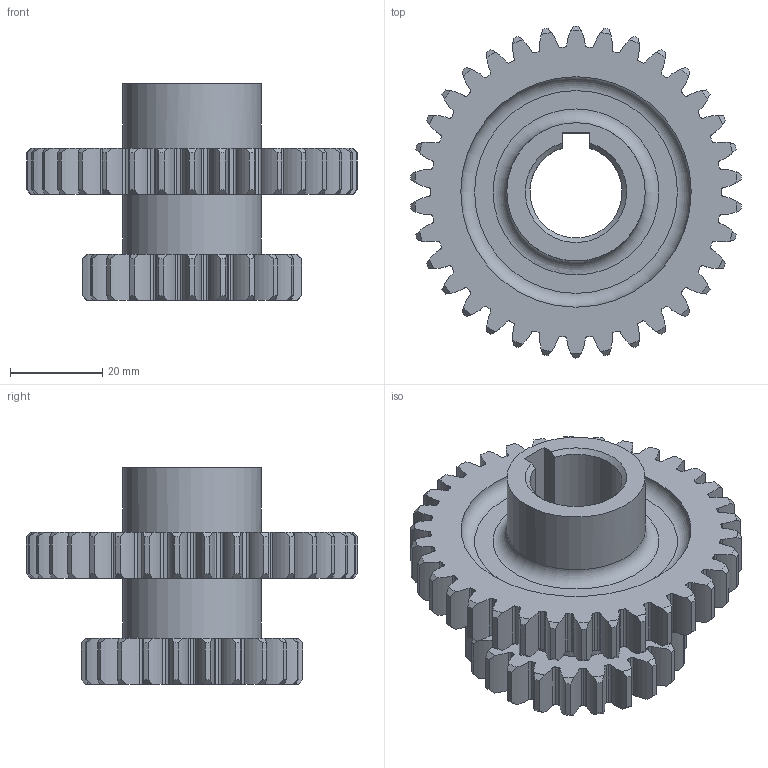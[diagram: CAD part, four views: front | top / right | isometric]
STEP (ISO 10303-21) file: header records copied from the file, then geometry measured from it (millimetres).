
FILE_DESCRIPTION((''),'2;1');
FILE_NAME('C:\Users\00\Desktop\ATC기계캐드마스터 1급\장지은-스퍼기어.stp','2018-09-29T12:17:14',('00'),(''),'Autodesk Inventor 2013','Autodesk Inventor 2013','');
FILE_SCHEMA(('AUTOMOTIVE_DESIGN { 1 0 10303 214 1 1 1 1 }'));
Length unit declared in the file: millimetre
Products named in the file (1): 장지은-스퍼기어
Bounding box: 71.79 x 72 x 47 mm (x, y, z)
Volume: 47723.7 mm3; surface area: 21347.8 mm2
Topology: 1 solids, 1 shells, 467 faces, 1379 edges, 919 vertices
Faces by surface type: cylinder 339, cone 114, plane 10, torus 4
Full cylindrical faces by diameter (mm): 30 x2
Entity records: 16254 total; most frequent: CARTESIAN_POINT 3438, DIRECTION 2878, ORIENTED_EDGE 2744, EDGE_CURVE 1372, AXIS2_PLACEMENT_3D 1266, VERTEX_POINT 918, CIRCLE 798, EDGE_LOOP 480
